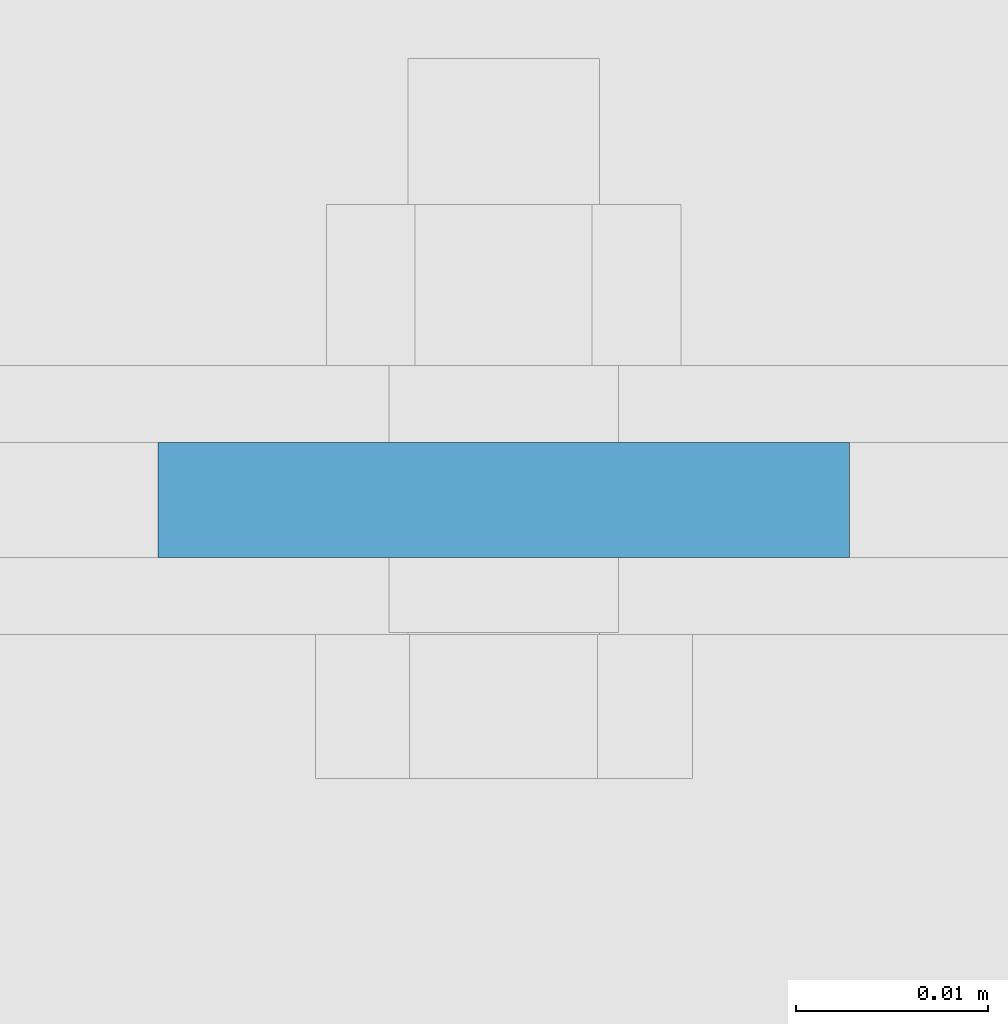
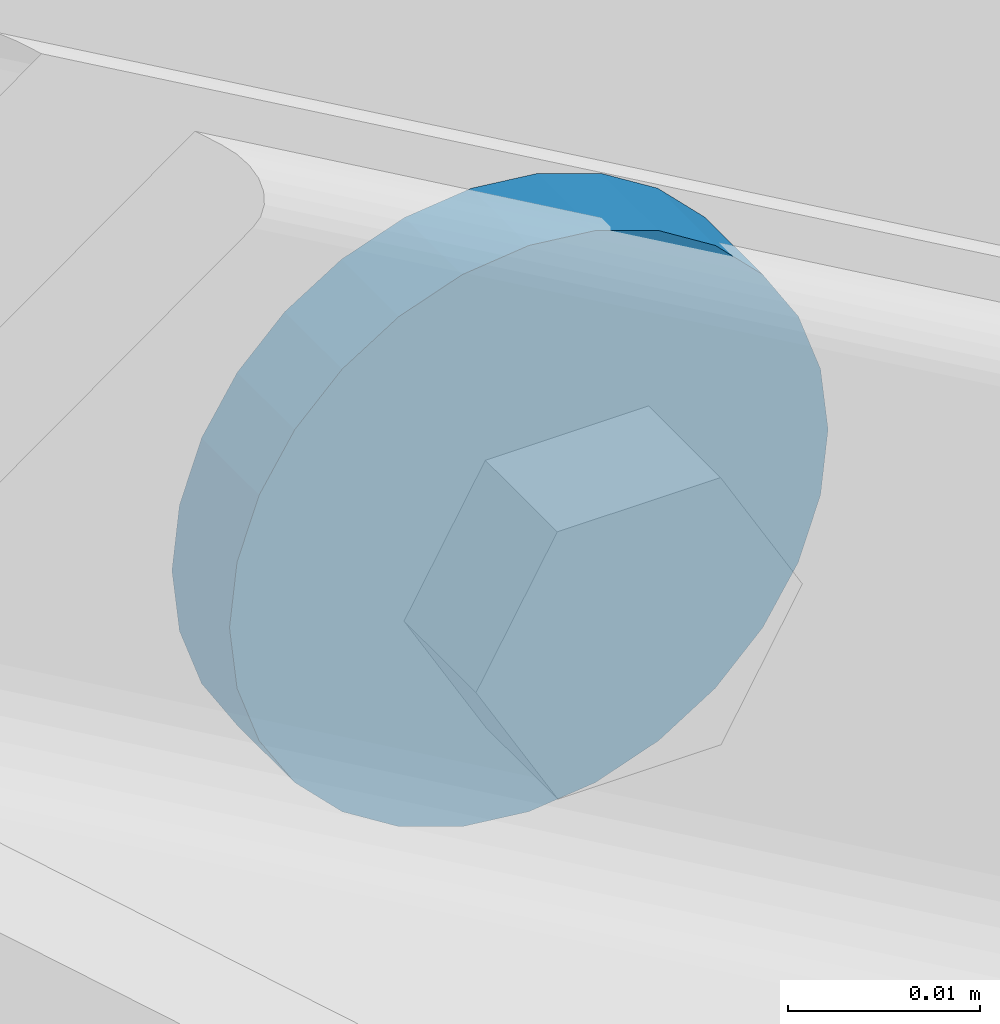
# One storey, part 130 of 362: 1 beam, 1 element without a shape of its own.
"""IFC2X3 building model written with IfcOpenShell, lengths in millimetres."""

from ifc_helpers import new_model, si_unit, frame, frame_2d, origin_with_axes, place, context, subcontext, project, spatial, circle_curve, parameter, trimmed, segment, composite_curve, outline, extrude, material, type_object, element, aggregate, save


model = new_model("IFC2X3")

# Units and contexts
model_context = context("Model", 3, precision=1e-05, world=origin_with_axes())
body_context = subcontext(model_context, "Body", "Model", "MODEL_VIEW")
ifc_project = project(units=[si_unit("LENGTHUNIT", "METRE", prefix="MILLI"), si_unit("AREAUNIT", "SQUARE_METRE"), si_unit("VOLUMEUNIT", "CUBIC_METRE"), si_unit("MASSUNIT", "GRAM", prefix="KILO"), si_unit("TIMEUNIT", "SECOND"), si_unit("PLANEANGLEUNIT", "RADIAN"), si_unit("SOLIDANGLEUNIT", "STERADIAN"), si_unit("THERMODYNAMICTEMPERATUREUNIT", "DEGREE_CELSIUS"), si_unit("LUMINOUSINTENSITYUNIT", "LUMEN")], contexts=[model_context])

# Site, building, storey
site_placement = place(None, origin_with_axes())
site = spatial("IfcSite", under=ifc_project, at=site_placement, Name="Undefined", CompositionType="ELEMENT")
building_placement = place(site_placement, origin_with_axes())
building = spatial("IfcBuilding", under=site, at=building_placement, Name="Undefined", CompositionType="ELEMENT")
storey_placement = place(building_placement, origin_with_axes())
storey = spatial("IfcBuildingStorey", under=building, at=storey_placement, Name="Undefined", CompositionType="ELEMENT", Elevation=0.0)

# Assembly, beam
assembly_placement = place(storey_placement, origin_with_axes())
assembly = element("IfcElementAssembly", 1, at=assembly_placement, inside=storey, AssemblyPlace="NOTDEFINED", PredefinedType="NOTDEFINED")
ifc_material = material(Name="Undefined/S235-E24")
beam_type = type_object("IfcBeamType", Name="TOLE6*36", PredefinedType="NOTDEFINED")
beam_placement = place(assembly_placement, frame((39336.3604524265, 11400.0003840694, 7347.22954232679), z_axis=(0.0, -1.0, 0.0), x_axis=(1.0, 0.0, 0.0)))
beam = element("IfcBeam", 2, at=beam_placement, type_object=beam_type, material=ifc_material, Name="PLAQUETTE", ObjectType="TOLE6*36", context=body_context, shape_type="SweptSolid", body=[
    extrude(outline(composite_curve([segment(trimmed(circle_curve(frame_2d((18.0, 18.0), x_axis=(-1.0, 0.0)), 18.0), [parameter(0.0)], [parameter(1.5707963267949)], True, "PARAMETER"), True, "CONTINUOUS"), segment(trimmed(circle_curve(frame_2d((18.0, 18.0), x_axis=(0.0, -1.0)), 18.0), [parameter(0.0)], [parameter(1.5707963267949)], True, "PARAMETER"), True, "CONTINUOUS"), segment(trimmed(circle_curve(frame_2d((18.0, 18.0), x_axis=(1.0, 0.0)), 18.0), [parameter(0.0)], [parameter(1.5707963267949)], True, "PARAMETER"), True, "CONTINUOUS"), segment(trimmed(circle_curve(frame_2d((18.0, 18.0), x_axis=(0.0, 1.0)), 18.0), [parameter(0.0)], [parameter(1.5707963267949)], True, "PARAMETER"), True, "CONTINUOUS")], self_intersect=True)), frame((0.0, 0.0, -3.0), z_axis=(0.0, 0.0, 1.0), x_axis=(1.0, 0.0, 0.0)), (0.0, 0.0, 1.0), 6.0),
])
aggregate(assembly, [beam])

save(model, "model.ifc")
